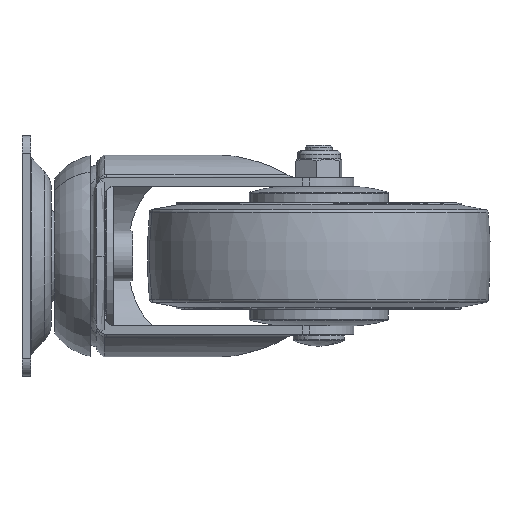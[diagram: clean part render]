
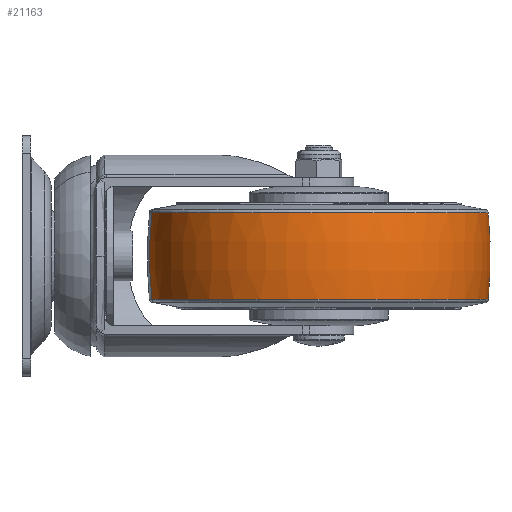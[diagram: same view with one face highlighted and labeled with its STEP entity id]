
A CAD part, left-side view. The second image highlights one B-rep face of the part: STEP entity #21163.
In plain terms, the highlighted toroidal (fillet/blend) face has major radius 70.6 mm and minor radius 120.6 mm.
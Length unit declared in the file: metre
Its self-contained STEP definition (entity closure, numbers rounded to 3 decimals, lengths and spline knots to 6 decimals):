
#165 = VERTEX_POINT ( 'NONE', #10887 ) ;
#1286 = ORIENTED_EDGE ( 'NONE', *, *, #11003, .F. ) ;
#2256 = AXIS2_PLACEMENT_3D ( 'NONE', #24965, #20567, #9606 ) ;
#4113 = AXIS2_PLACEMENT_3D ( 'NONE', #21943, #17230, #6288 ) ;
#4135 = CARTESIAN_POINT ( 'NONE',  ( -0.049355, -0.0378, -0.012562 ) ) ;
#4252 = DIRECTION ( 'NONE',  ( 0., -0.001, 1. ) ) ;
#4359 = VERTEX_POINT ( 'NONE', #21270 ) ;
#5285 = DIRECTION ( 'NONE',  ( -0.169, 0.986, 0. ) ) ;
#6288 = DIRECTION ( 'NONE',  ( 0.169, -0.986, -0.001 ) ) ;
#6406 = CIRCLE ( 'NONE', #4113, 0.049348 ) ;
#6607 = EDGE_LOOP ( 'NONE', ( #1286, #13393, #10418, #12543 ) ) ;
#6859 = VERTEX_POINT ( 'NONE', #4135 ) ;
#7133 = EDGE_CURVE ( 'NONE', #18790, #165, #19213, .T. ) ;
#9090 = CARTESIAN_POINT ( 'NONE',  ( -0.041, -0.086448, -0.000084 ) ) ;
#9549 = CIRCLE ( 'NONE', #2256, 0.1206 ) ;
#9606 = DIRECTION ( 'NONE',  ( 0.169, -0.986, 0. ) ) ;
#10418 = ORIENTED_EDGE ( 'NONE', *, *, #18805, .T. ) ;
#10887 = CARTESIAN_POINT ( 'NONE',  ( -0.032648, -0.135081, 0.012539 ) ) ;
#11003 = EDGE_CURVE ( 'NONE', #6859, #18790, #26474, .T. ) ;
#11469 = CARTESIAN_POINT ( 'NONE',  ( -0.049348, -0.03784, 0.012639 ) ) ;
#12543 = ORIENTED_EDGE ( 'NONE', *, *, #7133, .F. ) ;
#13191 = CARTESIAN_POINT ( 'NONE',  ( -0.040998, -0.086461, 0.012589 ) ) ;
#13393 = ORIENTED_EDGE ( 'NONE', *, *, #20406, .T. ) ;
#16393 = TOROIDAL_SURFACE ( 'NONE', #20968, -0.0706, 0.1206 ) ;
#17230 = DIRECTION ( 'NONE',  ( 0., -0.001, 1. ) ) ;
#17321 = DIRECTION ( 'NONE',  ( 0., -0.001, 1. ) ) ;
#18389 = CARTESIAN_POINT ( 'NONE',  ( -0.02905, -0.156029, -0.000156 ) ) ;
#18523 = DIRECTION ( 'NONE',  ( 0.986, 0.169, 0. ) ) ;
#18790 = VERTEX_POINT ( 'NONE', #11469 ) ;
#18805 = EDGE_CURVE ( 'NONE', #4359, #165, #9549, .T. ) ;
#19213 = CIRCLE ( 'NONE', #21924, 0.049332 ) ;
#19658 = AXIS2_PLACEMENT_3D ( 'NONE', #18389, #18523, #5285 ) ;
#20406 = EDGE_CURVE ( 'NONE', #6859, #4359, #6406, .T. ) ;
#20567 = DIRECTION ( 'NONE',  ( -0.986, -0.169, 0. ) ) ;
#20968 = AXIS2_PLACEMENT_3D ( 'NONE', #9090, #4252, #23899 ) ;
#21074 = FACE_OUTER_BOUND ( 'NONE', #6607, .T. ) ;
#21163 = ADVANCED_FACE ( 'NONE', ( #21074 ), #16393, .T. ) ;
#21270 = CARTESIAN_POINT ( 'NONE',  ( -0.03265, -0.135071, -0.012662 ) ) ;
#21924 = AXIS2_PLACEMENT_3D ( 'NONE', #13191, #17321, #26013 ) ;
#21943 = CARTESIAN_POINT ( 'NONE',  ( -0.041002, -0.086435, -0.012612 ) ) ;
#23899 = DIRECTION ( 'NONE',  ( 0.169, -0.986, -0.001 ) ) ;
#24965 = CARTESIAN_POINT ( 'NONE',  ( -0.05295, -0.016867, -0.000013 ) ) ;
#26013 = DIRECTION ( 'NONE',  ( 0.169, -0.986, -0.001 ) ) ;
#26474 = CIRCLE ( 'NONE', #19658, 0.1206 ) ;
